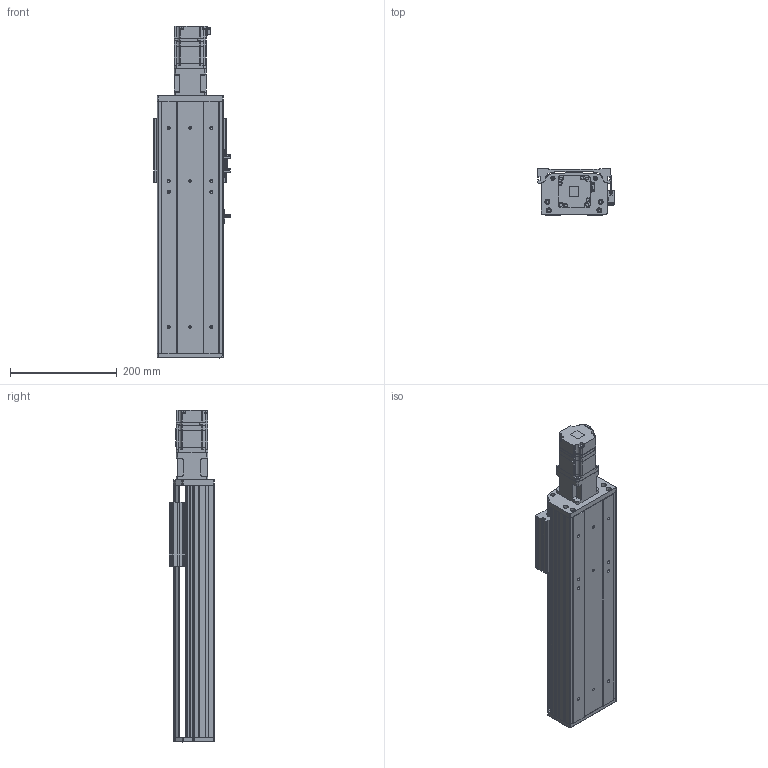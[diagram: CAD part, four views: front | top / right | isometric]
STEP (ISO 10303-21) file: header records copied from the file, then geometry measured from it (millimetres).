
FILE_DESCRIPTION(('Creo Elements/Direct Modeling STEP Export'),'2;1');
FILE_NAME('APOS120SON-ST300.stp','2022-02-18T11:31:03',(''),(''),'Creo Elements/Direct Modeling STEP processor for AP203 (Solid Model)','Creo Elements/Direct Modeling 19.0G 27-Nov-2017 (C) Parametric Technology GmbH','');
FILE_SCHEMA(('CONFIG_CONTROL_DESIGN'));
Length unit declared in the file: millimetre
Products named in the file (16): APCS070_MOTOR_BRACKET-200W_400W; sgmjv_02a_a21; SDWA-31C; APOS120_END_PLATE; EE_SX672.2; 120_end_cover_1220; APOS120_SENSOR_DOG; p1; p2; APOS1200_Carrier; p3; APOS120_BASE_FRAME-320L; APOS120SON-1520-ST300-20NN00-N-I3R; APOS120SON-ST300
Assembly tree (17 placements, depth 4):
  APOS120SON-ST300
    APOS120SON-1520-ST300-20NN00-N-I3R
      APOS120_BASE_FRAME-320L
        p3
        p2
        p1
      APOS1200_Carrier
        p2
        p1
      APOS120_SENSOR_DOG
      EE_SX672.2  x3
      120_end_cover_1220
      APOS120_END_PLATE
      SDWA-31C
      sgmjv_02a_a21
      APCS070_MOTOR_BRACKET-200W_400W
Bounding box: 144.2 x 86 x 623.1 mm (x, y, z)
Volume: 2519922.5 mm3; surface area: 622450.4 mm2
Topology: 14 solids, 46 shells, 2382 faces, 6274 edges, 4031 vertices
Faces by surface type: plane 1194, cylinder 775, cone 262, torus 139, bspline 8, sphere 4
Entity records: 75030 total; most frequent: CARTESIAN_POINT 16767, DIRECTION 11905, ORIENTED_EDGE 11672, EDGE_CURVE 5836, AXIS2_PLACEMENT_3D 4221, VERTEX_POINT 3791, VECTOR 3463, LINE 3463
